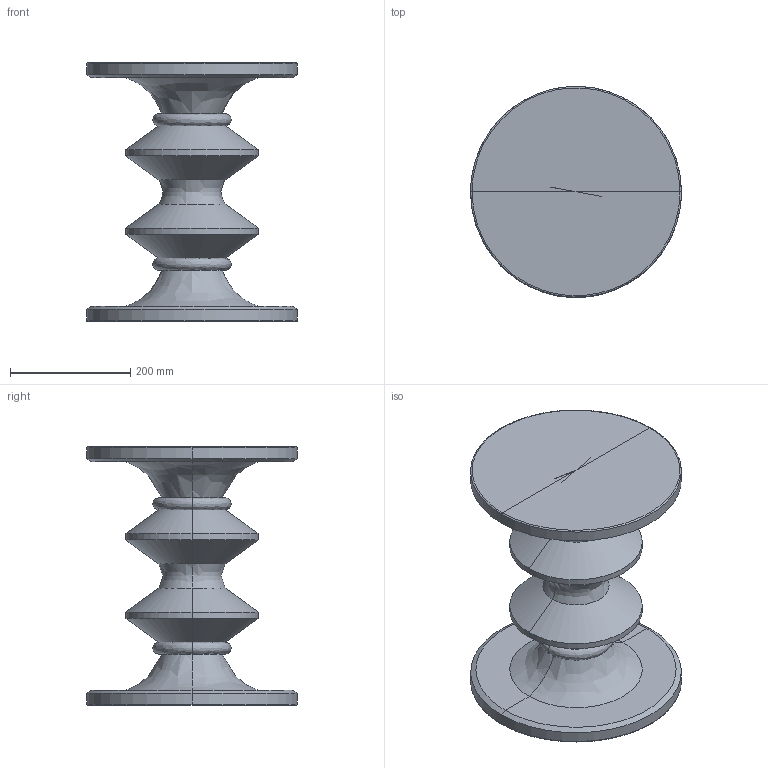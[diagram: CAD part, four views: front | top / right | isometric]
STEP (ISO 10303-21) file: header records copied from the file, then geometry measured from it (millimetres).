
FILE_DESCRIPTION(/* description */ (''),/* implementation_level */ '2;1');
FILE_NAME(/* name */ 'KINOSH~2',/* time_stamp */ '2018-07-03T09:55:21+09:00',/* author */ (''),/* organization */ (''),/* preprocessor_version */ 'ST-DEVELOPER v15',/* originating_system */ '',/* authorisation */ '');
FILE_SCHEMA (('AUTOMOTIVE_DESIGN'));
Length unit declared in the file: millimetre
Products named in the file (1): Document
Bounding box: 350 x 349.75 x 430 mm (x, y, z)
Volume: 11853177.2 mm3; surface area: 633682.3 mm2
Topology: 1 solids, 1 shells, 42 faces, 86 edges, 42 vertices
Faces by surface type: bspline 42
Entity records: 1395 total; most frequent: CARTESIAN_POINT 928, ORIENTED_EDGE 164, EDGE_CURVE 82, ADVANCED_FACE 42, FACE_OUTER_BOUND 42, EDGE_LOOP 42, VERTEX_POINT 42, B_SPLINE_CURVE_WITH_KNOTS 28
